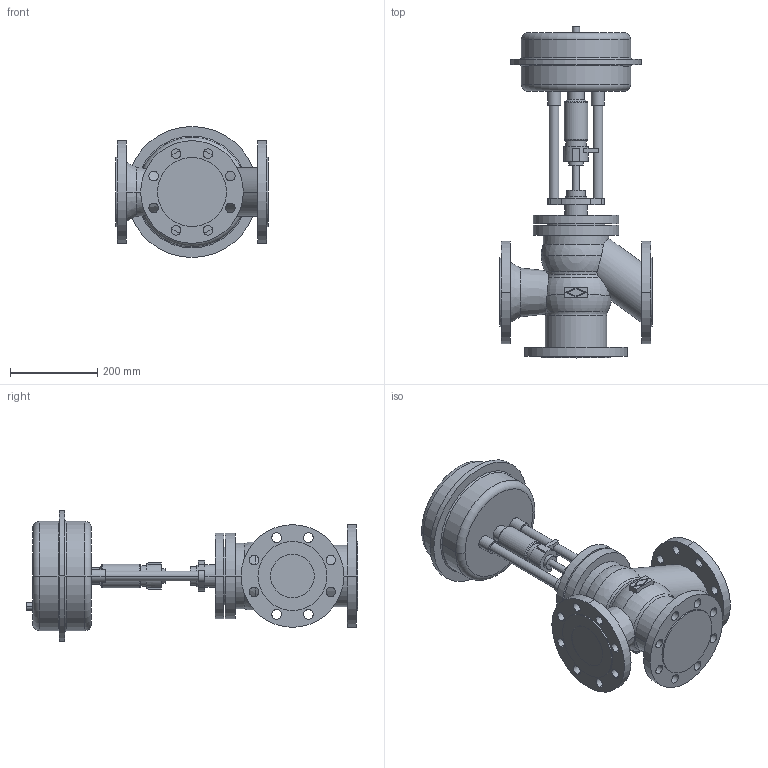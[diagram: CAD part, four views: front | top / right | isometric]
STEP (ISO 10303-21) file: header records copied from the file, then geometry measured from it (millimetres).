
FILE_DESCRIPTION(('OneSpaceDesigner STEP Export'),'2;1');
FILE_NAME('c000000677.stp','2006-09-19T10:08:23',(''),(''),'OneSpace Designer STEP processor for AP214 (Solid Model)','OneSpace Designer 13.20A 18-Aug-2005 (C) CoCreate Software GmbH','');
FILE_SCHEMA(('AUTOMOTIVE_DESIGN { 1 0 10303 214 1 1 1 1 }'));
Length unit declared in the file: millimetre
Products named in the file (2): 1; 2
Bounding box: 350 x 760.1 x 300 mm (x, y, z)
Volume: 17924397.1 mm3; surface area: 888899.7 mm2
Topology: 2 solids, 2 shells, 225 faces, 558 edges, 361 vertices
Faces by surface type: cylinder 114, plane 73, torus 26, cone 8, sphere 4
Entity records: 5986 total; most frequent: CARTESIAN_POINT 1157, ORIENTED_EDGE 1108, DIRECTION 848, EDGE_CURVE 554, VERTEX_POINT 361, AXIS2_PLACEMENT_3D 316, EDGE_LOOP 301, FACE_OUTER_BOUND 225
